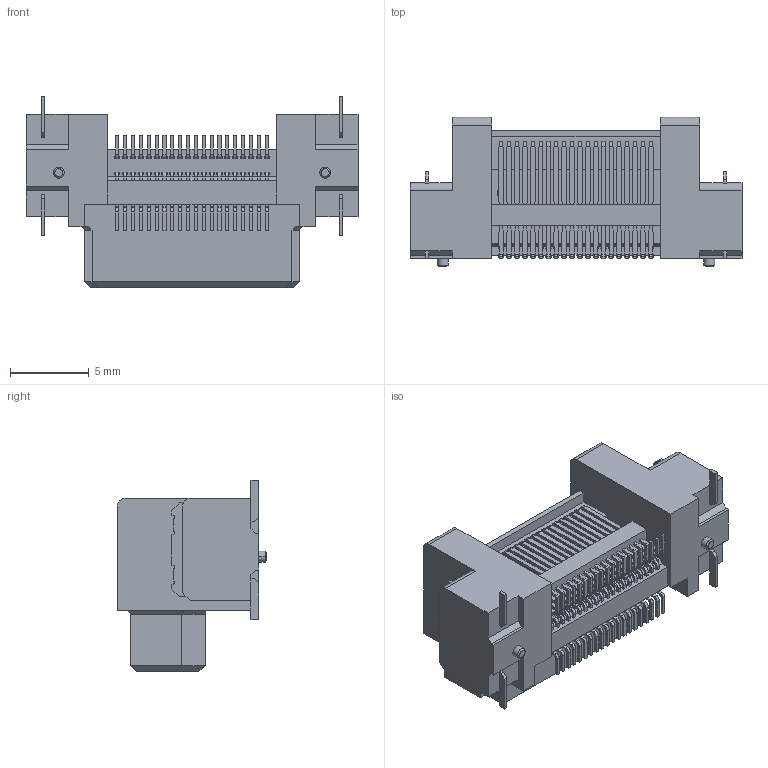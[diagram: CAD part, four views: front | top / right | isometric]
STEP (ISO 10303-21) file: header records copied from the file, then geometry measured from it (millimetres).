
FILE_DESCRIPTION(('Creo Elements/Direct Modeling STEP Export'),'2;1');
FILE_NAME('DT11-040L.stp','2018-11-12T16:52:22',(''),(''),'Creo Elements/Direct Modeling STEP processor for AP214 (Solid Model)','Creo Elements/Direct Modeling 19.0F 14-Feb-2017 (C) Parametric Technology GmbH','');
FILE_SCHEMA(('AUTOMOTIVE_DESIGN { 1 0 10303 214 1 1 1 1 }'));
Products named in the file (2): DT11-040L_model
Assembly tree (1 placements, depth 2):
  DT11-040L_model
    DT11-040L_model
Bounding box: 21.12 x 9.5 x 12.2 mm (x, y, z)
Volume: 925.3 mm3; surface area: 1280.4 mm2
Topology: 1 solids, 1 shells, 2110 faces, 5916 edges, 3852 vertices
Faces by surface type: plane 1770, cylinder 336, cone 4
Entity records: 65007 total; most frequent: ORIENTED_EDGE 11832, CARTESIAN_POINT 11383, DIRECTION 10101, EDGE_CURVE 5916, VECTOR 4961, LINE 4961, VERTEX_POINT 3852, AXIS2_PLACEMENT_3D 2570
